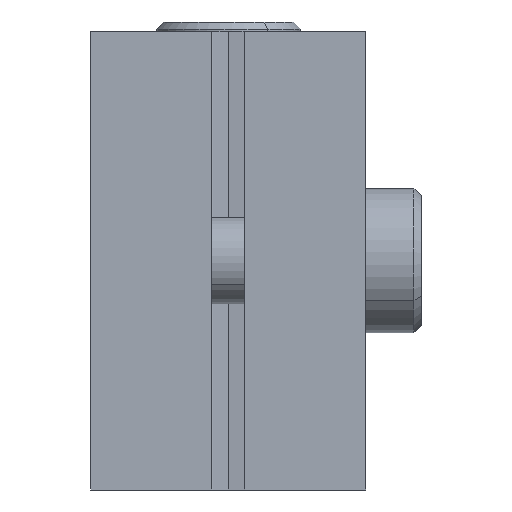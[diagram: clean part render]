
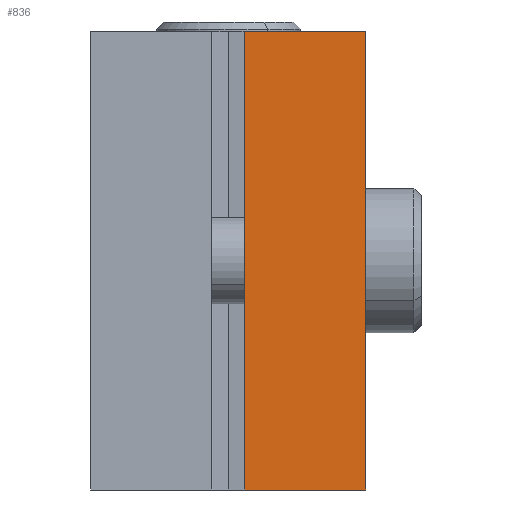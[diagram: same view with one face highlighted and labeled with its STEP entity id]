
A CAD part, left-side view. The second image highlights one B-rep face of the part: STEP entity #836.
In plain terms, the highlighted planar face has unit normal (-1, 0, 0).
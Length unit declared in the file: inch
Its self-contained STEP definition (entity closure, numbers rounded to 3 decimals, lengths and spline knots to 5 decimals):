
#346 = VERTEX_POINT ( 'NONE', #4611 ) ;
#347 = VERTEX_POINT ( 'NONE', #4612 ) ;
#408 = VERTEX_POINT ( 'NONE', #4673 ) ;
#528 = VERTEX_POINT ( 'NONE', #4793 ) ;
#836 = ADVANCED_FACE ( 'NONE', ( #4159 ), #6276, .F. ) ;
#2410 = EDGE_LOOP ( 'NONE', ( #2909, #2910, #2911, #2912 ) ) ;
#2909 = ORIENTED_EDGE ( 'NONE', *, *, #2969, .F. ) ;
#2910 = ORIENTED_EDGE ( 'NONE', *, *, #3135, .T. ) ;
#2911 = ORIENTED_EDGE ( 'NONE', *, *, #3136, .T. ) ;
#2912 = ORIENTED_EDGE ( 'NONE', *, *, #3030, .T. ) ;
#2969 = EDGE_CURVE ( 'NONE', #346, #347, #13017, .T. ) ;
#3030 = EDGE_CURVE ( 'NONE', #408, #347, #13117, .T. ) ;
#3135 = EDGE_CURVE ( 'NONE', #346, #528, #13263, .T. ) ;
#3136 = EDGE_CURVE ( 'NONE', #528, #408, #13266, .T. ) ;
#3400 = AXIS2_PLACEMENT_3D ( 'NONE', #6277, #6278, #6279 ) ;
#4159 = FACE_OUTER_BOUND ( 'NONE', #2410, .T. ) ;
#4611 = CARTESIAN_POINT ( 'NONE',  ( 0., 0.33, 0. ) ) ;
#4612 = CARTESIAN_POINT ( 'NONE',  ( 0., 0., 0. ) ) ;
#4673 = CARTESIAN_POINT ( 'NONE',  ( 0., 0., -1.25 ) ) ;
#4793 = CARTESIAN_POINT ( 'NONE',  ( 0., 0.33, -1.25 ) ) ;
#6276 = PLANE ( 'NONE',  #3400 ) ;
#6277 = CARTESIAN_POINT ( 'NONE',  ( 0., 0.75, 0. ) ) ;
#6278 = DIRECTION ( 'NONE',  ( 1., 0., 0. ) ) ;
#6279 = DIRECTION ( 'NONE',  ( 0., 0., -1. ) ) ;
#13017 = LINE ( 'NONE', #14263, #13018 ) ;
#13018 = VECTOR ( 'NONE', #14264, 39.37008 ) ;
#13117 = LINE ( 'NONE', #14683, #13119 ) ;
#13119 = VECTOR ( 'NONE', #14684, 39.37008 ) ;
#13263 = LINE ( 'NONE', #16956, #13265 ) ;
#13265 = VECTOR ( 'NONE', #16957, 39.37008 ) ;
#13266 = LINE ( 'NONE', #16958, #13267 ) ;
#13267 = VECTOR ( 'NONE', #16959, 39.37008 ) ;
#14263 = CARTESIAN_POINT ( 'NONE',  ( 0., 0.75, 0. ) ) ;
#14264 = DIRECTION ( 'NONE',  ( 0., -1., 0. ) ) ;
#14683 = CARTESIAN_POINT ( 'NONE',  ( 0., 0., 0. ) ) ;
#14684 = DIRECTION ( 'NONE',  ( 0., 0., 1. ) ) ;
#16956 = CARTESIAN_POINT ( 'NONE',  ( 0., 0.33, 0. ) ) ;
#16957 = DIRECTION ( 'NONE',  ( 0., 0., -1. ) ) ;
#16958 = CARTESIAN_POINT ( 'NONE',  ( 0., 0.75, -1.25 ) ) ;
#16959 = DIRECTION ( 'NONE',  ( 0., -1., 0. ) ) ;
